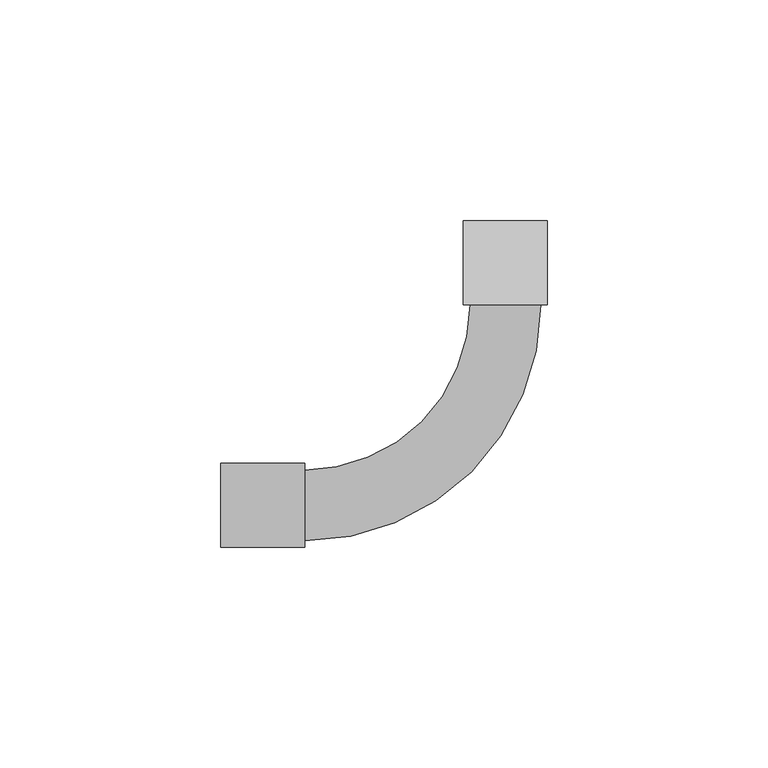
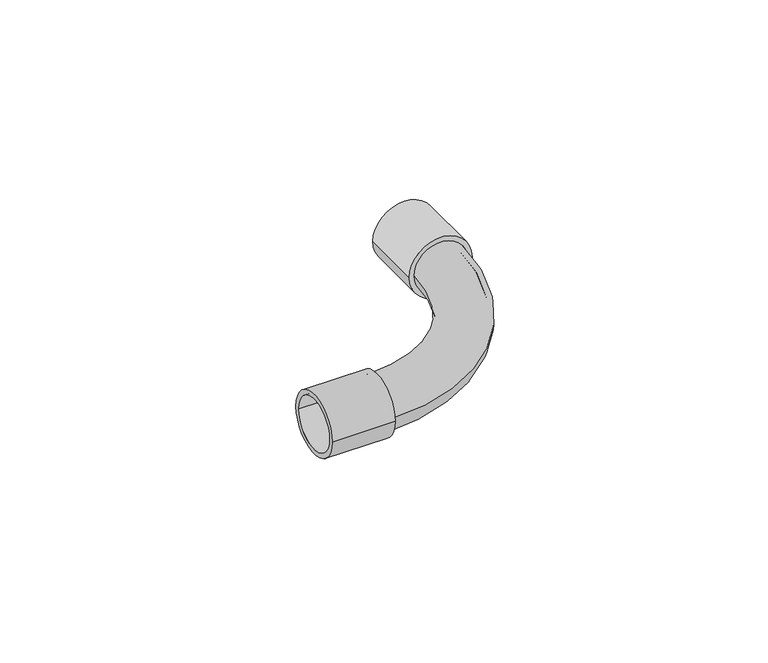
"""IFC4 building model written with IfcOpenShell, lengths in millimetres: cable carrier fitting geometry."""

from ifc_helpers import new_model, si_unit, point, frame, origin, origin_2d, place, context, project, spatial, circle_curve, ellipse_curve, trimmed, segment, composite_curve, outline, extrude, source, transform, mapped, element, save
from ifc_brep_helpers import plane_surface, revolved_surface, advanced_brep


def cable_carrier_fitting_f37e0b65(model_context):
    return source(origin(), model_context, "Body", "SolidModel", [
        advanced_brep(
        [(-45.5, -8.0, 0.0), (-45.5, 8.0, 0.0), (-45.5, -6.5, 0.0), (-45.5, 6.5, 0.0), (8.0, 45.5, 0.0), (-8.0, 45.5, 0.0), (6.5, 45.5, 0.0), (-6.5, 45.5, 0.0)],
        [
            (0, 1, circle_curve(frame((-45.5, 0.0, 0.0), z_axis=(-1.0, 0.0, 0.0), x_axis=(0.0, 1.0, 0.0)), 8.0)),
            (1, 0, circle_curve(frame((-45.5, 0.0, 0.0), z_axis=(-1.0, 0.0, 0.0), x_axis=(0.0, 1.0, 0.0)), 8.0)),
            (2, 3, circle_curve(frame((-45.5, 0.0, 0.0), z_axis=(1.0, 0.0, 0.0), x_axis=(0.0, 1.0, 0.0)), 6.5)),
            (3, 2, circle_curve(frame((-45.5, 0.0, 0.0), z_axis=(1.0, 0.0, 0.0), x_axis=(0.0, 1.0, 0.0)), 6.5)),
            (4, 5, circle_curve(frame((0.0, 45.5, 0.0), z_axis=(0.0, 1.0, 0.0), x_axis=(-1.0, 0.0, 0.0)), 8.0)),
            (5, 4, circle_curve(frame((0.0, 45.5, 0.0), z_axis=(0.0, 1.0, 0.0), x_axis=(-1.0, 0.0, 0.0)), 8.0)),
            (6, 7, circle_curve(frame((0.0, 45.5, 0.0), z_axis=(0.0, -1.0, 0.0), x_axis=(-1.0, 0.0, 0.0)), 6.5)),
            (7, 6, circle_curve(frame((0.0, 45.5, 0.0), z_axis=(0.0, -1.0, 0.0), x_axis=(-1.0, 0.0, 0.0)), 6.5)),
            (5, 1, circle_curve(frame((-45.5, 45.5, 0.0), z_axis=(0.0, 0.0, -1.0), x_axis=(0.0, -1.0, 0.0)), 37.5)),
            (0, 4, circle_curve(frame((-45.5, 45.5, 0.0), z_axis=(0.0, 0.0, 1.0), x_axis=(0.0, -1.0, 0.0)), 53.5)),
            (7, 3, circle_curve(frame((-45.5, 45.5, 0.0), z_axis=(0.0, 0.0, -1.0), x_axis=(0.0, -1.0, 0.0)), 39.0)),
            (2, 6, circle_curve(frame((-45.5, 45.5, 0.0), z_axis=(0.0, 0.0, 1.0), x_axis=(0.0, -1.0, 0.0)), 52.0)),
        ],
        [
            plane_surface(frame((-45.5, 0.0, 0.0), z_axis=(-1.0, 0.0, 0.0), x_axis=(0.0, 0.0, 1.0))),
            plane_surface(frame((0.0, 45.5, 0.0), z_axis=(0.0, 1.0, 0.0), x_axis=(0.0, 0.0, 1.0))),
            revolved_surface(trimmed(ellipse_curve(frame((-45.5, 0.0, 0.0), z_axis=(-1.0, 0.0, 0.0), x_axis=(0.0, 1.0, 0.0)), 8.0, 8.0), [point((-45.5, -8.0, 0.0))], [point((-45.5, 8.0, 0.0))], True, "CARTESIAN"), (-45.5, 45.5, 0.0), (0.0, 0.0, 1.0)),
            revolved_surface(trimmed(ellipse_curve(frame((-45.5, 0.0, 0.0), z_axis=(-1.0, 0.0, 0.0), x_axis=(0.0, 1.0, 0.0)), 8.0, 8.0), [point((-45.5, 8.0, 0.0))], [point((-45.5, -8.0, 0.0))], True, "CARTESIAN"), (-45.5, 45.5, 0.0), (0.0, 0.0, 1.0)),
            revolved_surface(trimmed(ellipse_curve(frame((-45.5, 0.0, 0.0), z_axis=(1.0, 0.0, 0.0), x_axis=(0.0, 1.0, 0.0)), 6.5, 6.5), [point((-45.5, -6.5, 0.0))], [point((-45.5, 6.5, 0.0))], True, "CARTESIAN"), (-45.5, 45.5, 0.0), (0.0, 0.0, 1.0)),
            revolved_surface(trimmed(ellipse_curve(frame((-45.5, 0.0, 0.0), z_axis=(1.0, 0.0, 0.0), x_axis=(0.0, 1.0, 0.0)), 6.5, 6.5), [point((-45.5, 6.5, 0.0))], [point((-45.5, -6.5, 0.0))], True, "CARTESIAN"), (-45.5, 45.5, 0.0), (0.0, 0.0, 1.0)),
        ],
        [
            (0, [[1, 2], [3, 4]]),
            (1, [[5, 6], [7, 8]]),
            (2, [[9, -1, 10, -6]]),
            (3, [[-10, -2, -9, -5]]),
            (4, [[11, -3, 12, -8]]),
            (5, [[-12, -4, -11, -7]]),
        ],
    ),
        extrude(outline(composite_curve([segment(trimmed(circle_curve(origin_2d(), 9.5), [point((0.0, 9.5))], [point((0.0, -9.5))], False, "CARTESIAN"), True, "CONTINUOUS"), segment(trimmed(circle_curve(origin_2d(), 9.5), [point((0.0, -9.5))], [point((0.0, 9.5))], False, "CARTESIAN"), True, "CONTINUOUS")], self_intersect=False), holes=[composite_curve([segment(trimmed(circle_curve(origin_2d(), 8.0), [point((0.0, 8.0))], [point((0.0, -8.0))], True, "CARTESIAN"), True, "CONTINUOUS"), segment(trimmed(circle_curve(origin_2d(), 8.0), [point((0.0, -8.0))], [point((0.0, 8.0))], True, "CARTESIAN"), True, "CONTINUOUS")], self_intersect=False)]), frame((0.0, 45.5, 0.0), z_axis=(0.0, 1.0, 0.0), x_axis=(0.0, 0.0, 1.0)), (0.0, 0.0, 1.0), 19.0),
        extrude(outline(composite_curve([segment(trimmed(circle_curve(origin_2d(), 9.5), [point((-9.5, 0.0))], [point((9.5, 0.0))], False, "CARTESIAN"), True, "CONTINUOUS"), segment(trimmed(circle_curve(origin_2d(), 9.5), [point((9.5, 0.0))], [point((-9.5, 0.0))], False, "CARTESIAN"), True, "CONTINUOUS")], self_intersect=False), holes=[composite_curve([segment(trimmed(circle_curve(origin_2d(), 8.0), [point((-8.0, 0.0))], [point((8.0, 0.0))], True, "CARTESIAN"), True, "CONTINUOUS"), segment(trimmed(circle_curve(origin_2d(), 8.0), [point((8.0, 0.0))], [point((-8.0, 0.0))], True, "CARTESIAN"), True, "CONTINUOUS")], self_intersect=False)]), frame((-64.5, 0.0, 0.0), z_axis=(1.0, 0.0, 0.0), x_axis=(0.0, 1.0, 0.0)), (0.0, 0.0, 1.0), 19.0),
    ])


if __name__ == "__main__":
    model = new_model("IFC4")
    model_context = context("Model", 3, world=origin())
    ifc_project = project(units=[si_unit("LENGTHUNIT", "METRE", prefix="MILLI")], contexts=[model_context])
    site = spatial("IfcSite", under=ifc_project)
    building = spatial("IfcBuilding", under=site)
    placement = place(None, origin())
    cable_carrier_fitting_shape = cable_carrier_fitting_f37e0b65(model_context)
    element("IfcCableCarrierFitting", 1, at=placement, inside=building, context=model_context, shape_type="MappedRepresentation", body=[
        mapped(cable_carrier_fitting_shape, transform((0.0, 0.0, 0.0), x_axis=(1.0, 0.0, 0.0), y_axis=(0.0, 1.0, 0.0), z_axis=(0.0, 0.0, 1.0))),
    ])
    save(model, "model.ifc")
